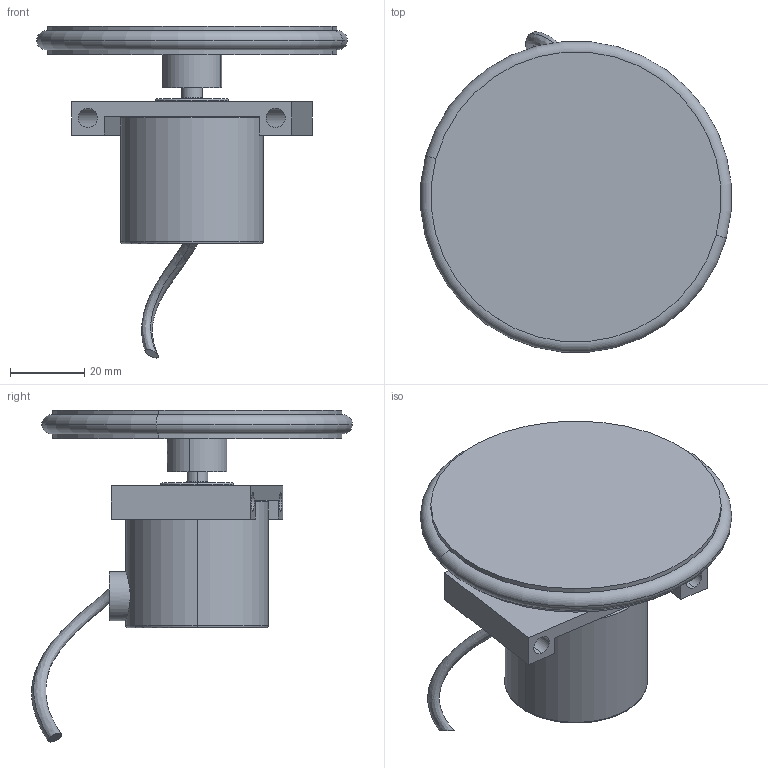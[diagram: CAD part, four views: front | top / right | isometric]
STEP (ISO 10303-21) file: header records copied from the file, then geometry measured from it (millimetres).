
FILE_DESCRIPTION (( 'STEP AP203' ), '1' );
FILE_NAME ('encoder + support.STEP', '2025-10-13T10:19:14', ( '' ), ( '' ), 'SwSTEP 2.0', 'SolidWorks 2023', '' );
FILE_SCHEMA (( 'CONFIG_CONTROL_DESIGN' ));
Length unit declared in the file: millimetre
Products named in the file (4): encoder; encoder wheel; encoders support current; encoder + support
Assembly tree (3 placements, depth 2):
  encoder + support
    encoder
    encoder wheel
    encoders support current
Bounding box: 83.43 x 86.19 x 89.19 mm (x, y, z)
Volume: 91965 mm3; surface area: 31632.9 mm2
Topology: 4 solids, 4 shells, 84 faces, 184 edges, 115 vertices
Faces by surface type: cylinder 36, plane 25, torus 21, bspline 2
Entity records: 3297 total; most frequent: CARTESIAN_POINT 935, DIRECTION 461, ORIENTED_EDGE 368, AXIS2_PLACEMENT_3D 199, EDGE_CURVE 184, VERTEX_POINT 115, CIRCLE 111, EDGE_LOOP 107
